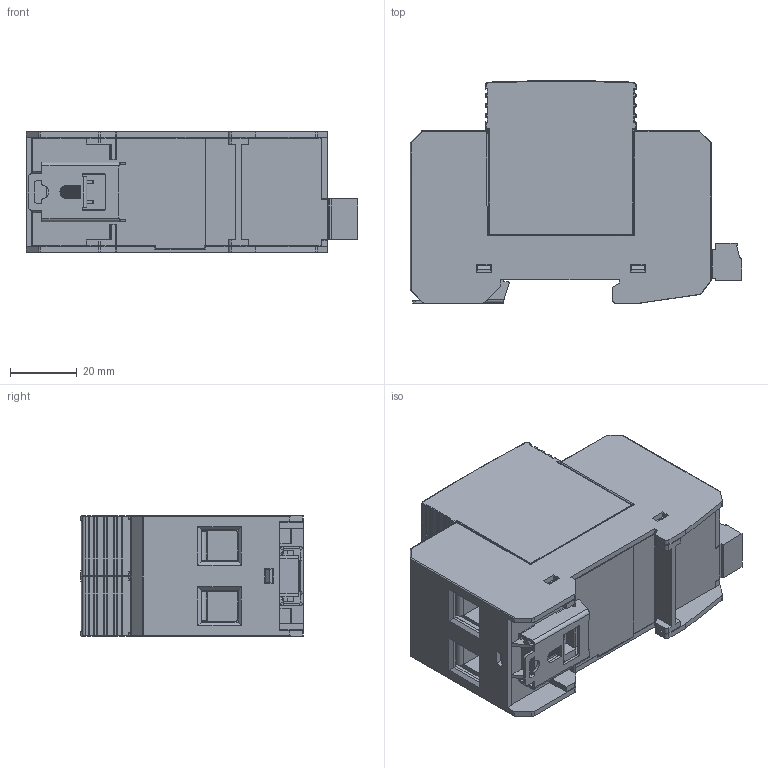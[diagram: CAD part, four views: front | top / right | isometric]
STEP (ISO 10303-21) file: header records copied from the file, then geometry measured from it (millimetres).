
FILE_DESCRIPTION((''),'2;1');
FILE_NAME('00','2023-02-08T11:39:43',('youlianqiao'),(''),'CREO PARAMETRIC BY PTC INC, 2022073','CREO PARAMETRIC BY PTC INC, 2022073','');
FILE_SCHEMA(('CONFIG_CONTROL_DESIGN'));
Products named in the file (1): 00
Bounding box: 99.1 x 66.5 x 36 mm (x, y, z)
Volume: 60211.2 mm3; surface area: 83668.3 mm2
Topology: 1 solids, 1 shells, 2576 faces, 7021 edges, 4299 vertices
Faces by surface type: plane 1647, cylinder 565, bspline 118, torus 96, sphere 86, cone 52, extrusion 12
Entity records: 93631 total; most frequent: CARTESIAN_POINT 30346, ORIENTED_EDGE 13786, DIRECTION 12204, EDGE_CURVE 6893, VECTOR 5046, LINE 5034, VERTEX_POINT 4356, AXIS2_PLACEMENT_3D 3579
